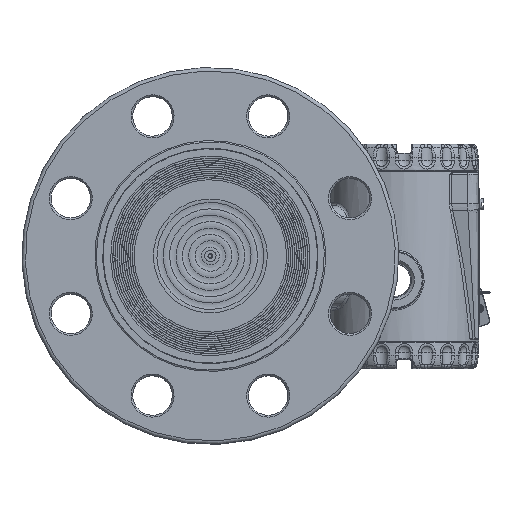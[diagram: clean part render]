
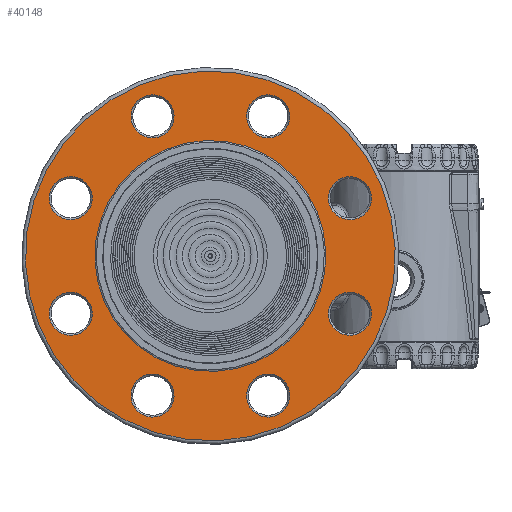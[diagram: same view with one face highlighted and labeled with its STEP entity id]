
A CAD part, top view. The second image highlights one B-rep face of the part: STEP entity #40148.
In plain terms, the highlighted planar face has unit normal (0, 0, 1) as drawn and (-1, 0, 0) by its records, which use the part's own axes.
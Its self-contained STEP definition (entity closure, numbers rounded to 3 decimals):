
#670=FACE_BOUND('',#6636,.T.);
#671=FACE_BOUND('',#6637,.T.);
#672=FACE_BOUND('',#6638,.T.);
#673=FACE_BOUND('',#6639,.T.);
#674=FACE_BOUND('',#6640,.T.);
#675=FACE_BOUND('',#6641,.T.);
#676=FACE_BOUND('',#6642,.T.);
#677=FACE_BOUND('',#6643,.T.);
#678=FACE_BOUND('',#6644,.T.);
#2587=PLANE('',#44598);
#3956=FACE_OUTER_BOUND('',#6635,.T.);
#6635=EDGE_LOOP('',(#30656,#30657));
#6636=EDGE_LOOP('',(#30658));
#6637=EDGE_LOOP('',(#30659));
#6638=EDGE_LOOP('',(#30660));
#6639=EDGE_LOOP('',(#30661));
#6640=EDGE_LOOP('',(#30662,#30663));
#6641=EDGE_LOOP('',(#30664));
#6642=EDGE_LOOP('',(#30665));
#6643=EDGE_LOOP('',(#30666));
#6644=EDGE_LOOP('',(#30667));
#13257=CIRCLE('',#44597,12.);
#13258=CIRCLE('',#44599,103.);
#13259=CIRCLE('',#44600,103.);
#13260=CIRCLE('',#44601,12.);
#13261=CIRCLE('',#44602,12.);
#13262=CIRCLE('',#44603,12.);
#13263=CIRCLE('',#44604,12.);
#13264=CIRCLE('',#44605,64.3);
#13265=CIRCLE('',#44606,64.3);
#13266=CIRCLE('',#44607,12.);
#13267=CIRCLE('',#44608,12.);
#13268=CIRCLE('',#44609,12.);
#17599=VERTEX_POINT('',#70985);
#17600=VERTEX_POINT('',#70989);
#17601=VERTEX_POINT('',#70990);
#17602=VERTEX_POINT('',#70993);
#17603=VERTEX_POINT('',#70995);
#17604=VERTEX_POINT('',#70997);
#17605=VERTEX_POINT('',#70999);
#17606=VERTEX_POINT('',#71001);
#17607=VERTEX_POINT('',#71002);
#17608=VERTEX_POINT('',#71005);
#17609=VERTEX_POINT('',#71007);
#17610=VERTEX_POINT('',#71009);
#22231=EDGE_CURVE('',#17599,#17599,#13257,.T.);
#22233=EDGE_CURVE('',#17600,#17601,#13258,.T.);
#22234=EDGE_CURVE('',#17601,#17600,#13259,.T.);
#22235=EDGE_CURVE('',#17602,#17602,#13260,.T.);
#22236=EDGE_CURVE('',#17603,#17603,#13261,.T.);
#22237=EDGE_CURVE('',#17604,#17604,#13262,.T.);
#22238=EDGE_CURVE('',#17605,#17605,#13263,.T.);
#22239=EDGE_CURVE('',#17606,#17607,#13264,.T.);
#22240=EDGE_CURVE('',#17607,#17606,#13265,.T.);
#22241=EDGE_CURVE('',#17608,#17608,#13266,.T.);
#22242=EDGE_CURVE('',#17609,#17609,#13267,.T.);
#22243=EDGE_CURVE('',#17610,#17610,#13268,.T.);
#30656=ORIENTED_EDGE('',*,*,#22233,.F.);
#30657=ORIENTED_EDGE('',*,*,#22234,.F.);
#30658=ORIENTED_EDGE('',*,*,#22235,.F.);
#30659=ORIENTED_EDGE('',*,*,#22236,.F.);
#30660=ORIENTED_EDGE('',*,*,#22237,.F.);
#30661=ORIENTED_EDGE('',*,*,#22238,.F.);
#30662=ORIENTED_EDGE('',*,*,#22239,.T.);
#30663=ORIENTED_EDGE('',*,*,#22240,.T.);
#30664=ORIENTED_EDGE('',*,*,#22241,.F.);
#30665=ORIENTED_EDGE('',*,*,#22242,.F.);
#30666=ORIENTED_EDGE('',*,*,#22243,.F.);
#30667=ORIENTED_EDGE('',*,*,#22231,.F.);
#40148=ADVANCED_FACE('',(#3956,#670,#671,#672,#673,#674,#675,#676,#677,
#678),#2587,.T.);
#44597=AXIS2_PLACEMENT_3D('',#70986,#52512,#52513);
#44598=AXIS2_PLACEMENT_3D('',#70988,#52515,#52516);
#44599=AXIS2_PLACEMENT_3D('',#70991,#52517,#52518);
#44600=AXIS2_PLACEMENT_3D('',#70992,#52519,#52520);
#44601=AXIS2_PLACEMENT_3D('',#70994,#52521,#52522);
#44602=AXIS2_PLACEMENT_3D('',#70996,#52523,#52524);
#44603=AXIS2_PLACEMENT_3D('',#70998,#52525,#52526);
#44604=AXIS2_PLACEMENT_3D('',#71000,#52527,#52528);
#44605=AXIS2_PLACEMENT_3D('',#71003,#52529,#52530);
#44606=AXIS2_PLACEMENT_3D('',#71004,#52531,#52532);
#44607=AXIS2_PLACEMENT_3D('',#71006,#52533,#52534);
#44608=AXIS2_PLACEMENT_3D('',#71008,#52535,#52536);
#44609=AXIS2_PLACEMENT_3D('',#71010,#52537,#52538);
#52512=DIRECTION('center_axis',(-1.,0.,0.));
#52513=DIRECTION('ref_axis',(0.,-0.707,-0.707));
#52515=DIRECTION('center_axis',(-1.,0.,0.));
#52516=DIRECTION('ref_axis',(0.,0.,1.));
#52517=DIRECTION('center_axis',(1.,0.,0.));
#52518=DIRECTION('ref_axis',(0.,1.,0.));
#52519=DIRECTION('center_axis',(1.,0.,0.));
#52520=DIRECTION('ref_axis',(0.,1.,0.));
#52521=DIRECTION('center_axis',(-1.,0.,0.));
#52522=DIRECTION('ref_axis',(0.,-1.,0.));
#52523=DIRECTION('center_axis',(-1.,0.,0.));
#52524=DIRECTION('ref_axis',(0.,0.,1.));
#52525=DIRECTION('center_axis',(-1.,0.,0.));
#52526=DIRECTION('ref_axis',(0.,1.,0.));
#52527=DIRECTION('center_axis',(-1.,0.,0.));
#52528=DIRECTION('ref_axis',(0.,0.,-1.));
#52529=DIRECTION('center_axis',(1.,0.,0.));
#52530=DIRECTION('ref_axis',(0.,1.,0.));
#52531=DIRECTION('center_axis',(1.,0.,0.));
#52532=DIRECTION('ref_axis',(0.,1.,0.));
#52533=DIRECTION('center_axis',(-1.,0.,0.));
#52534=DIRECTION('ref_axis',(0.,0.707,-0.707));
#52535=DIRECTION('center_axis',(-1.,0.,0.));
#52536=DIRECTION('ref_axis',(0.,0.707,0.707));
#52537=DIRECTION('center_axis',(-1.,0.,0.));
#52538=DIRECTION('ref_axis',(0.,-0.707,0.707));
#70985=CARTESIAN_POINT('',(2.,67.988,67.988));
#70986=CARTESIAN_POINT('Origin',(2.,59.503,59.503));
#70988=CARTESIAN_POINT('Origin',(2.,83.65,0.));
#70989=CARTESIAN_POINT('',(2.,103.,0.));
#70990=CARTESIAN_POINT('',(2.,0.,103.));
#70991=CARTESIAN_POINT('Origin',(2.,0.,0.));
#70992=CARTESIAN_POINT('Origin',(2.,0.,0.));
#70993=CARTESIAN_POINT('',(2.,96.15,0.));
#70994=CARTESIAN_POINT('Origin',(2.,84.15,0.));
#70995=CARTESIAN_POINT('',(2.,0.,-96.15));
#70996=CARTESIAN_POINT('Origin',(2.,0.,-84.15));
#70997=CARTESIAN_POINT('',(2.,-96.15,0.));
#70998=CARTESIAN_POINT('Origin',(2.,-84.15,0.));
#70999=CARTESIAN_POINT('',(2.,0.,96.15));
#71000=CARTESIAN_POINT('Origin',(2.,0.,84.15));
#71001=CARTESIAN_POINT('',(2.,64.3,0.));
#71002=CARTESIAN_POINT('',(2.,0.,64.3));
#71003=CARTESIAN_POINT('Origin',(2.,0.,0.));
#71004=CARTESIAN_POINT('Origin',(2.,0.,0.));
#71005=CARTESIAN_POINT('',(2.,-67.988,67.988));
#71006=CARTESIAN_POINT('Origin',(2.,-59.503,59.503));
#71007=CARTESIAN_POINT('',(2.,-67.988,-67.988));
#71008=CARTESIAN_POINT('Origin',(2.,-59.503,-59.503));
#71009=CARTESIAN_POINT('',(2.,67.988,-67.988));
#71010=CARTESIAN_POINT('Origin',(2.,59.503,-59.503));
